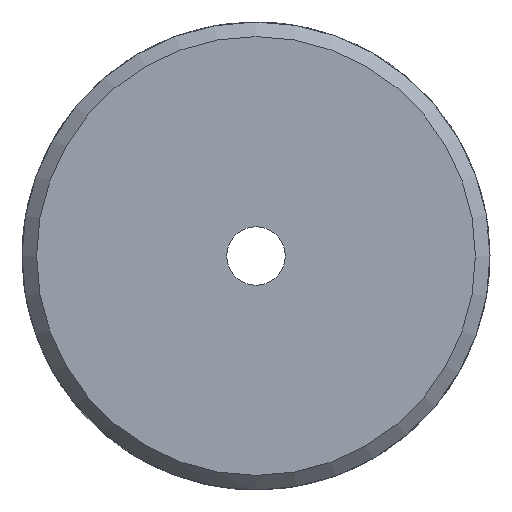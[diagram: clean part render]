
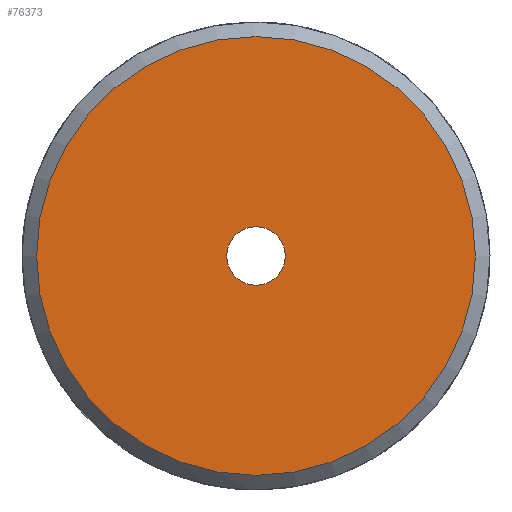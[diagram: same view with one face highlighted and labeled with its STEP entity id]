
A CAD part, left-side view. The second image highlights one B-rep face of the part: STEP entity #76373.
In plain terms, the highlighted planar face has unit normal (-1, 0, 0).
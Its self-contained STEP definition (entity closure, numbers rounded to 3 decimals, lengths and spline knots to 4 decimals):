
#22116=PLANE('',#74705);
#24147=ORIENTED_EDGE('',*,*,#30751,.T.);
#24148=ORIENTED_EDGE('',*,*,#30752,.F.);
#28535=CIRCLE('',#74704,7.5);
#28536=CIRCLE('',#74706,1.);
#29275=VERTEX_POINT('',#37826);
#29276=VERTEX_POINT('',#37829);
#30751=EDGE_CURVE('',#29275,#29275,#28535,.T.);
#30752=EDGE_CURVE('',#29276,#29276,#28536,.T.);
#32937=EDGE_LOOP('',(#24147));
#32938=EDGE_LOOP('',(#24148));
#33683=FACE_BOUND('',#32937,.T.);
#33684=FACE_BOUND('',#32938,.T.);
#34446=DIRECTION('',(-1.,0.,0.));
#34447=DIRECTION('',(0.,0.,-7.5));
#34448=DIRECTION('',(-1.,0.,0.));
#34449=DIRECTION('',(0.,1.,0.));
#34450=DIRECTION('',(-1.,0.,0.));
#34451=DIRECTION('',(0.,-1.,0.));
#37826=CARTESIAN_POINT('',(9.75,170.8381,-7.5));
#37827=CARTESIAN_POINT('',(9.75,170.8381,0.));
#37828=CARTESIAN_POINT('',(9.75,170.8381,-7.5));
#37829=CARTESIAN_POINT('',(9.75,169.8381,0.));
#37830=CARTESIAN_POINT('',(9.75,170.8381,0.));
#74704=AXIS2_PLACEMENT_3D('',#37827,#34446,#34447);
#74705=AXIS2_PLACEMENT_3D('',#37828,#34448,#34449);
#74706=AXIS2_PLACEMENT_3D('',#37830,#34450,#34451);
#76373=ADVANCED_FACE('',(#33683,#33684),#22116,.T.);
